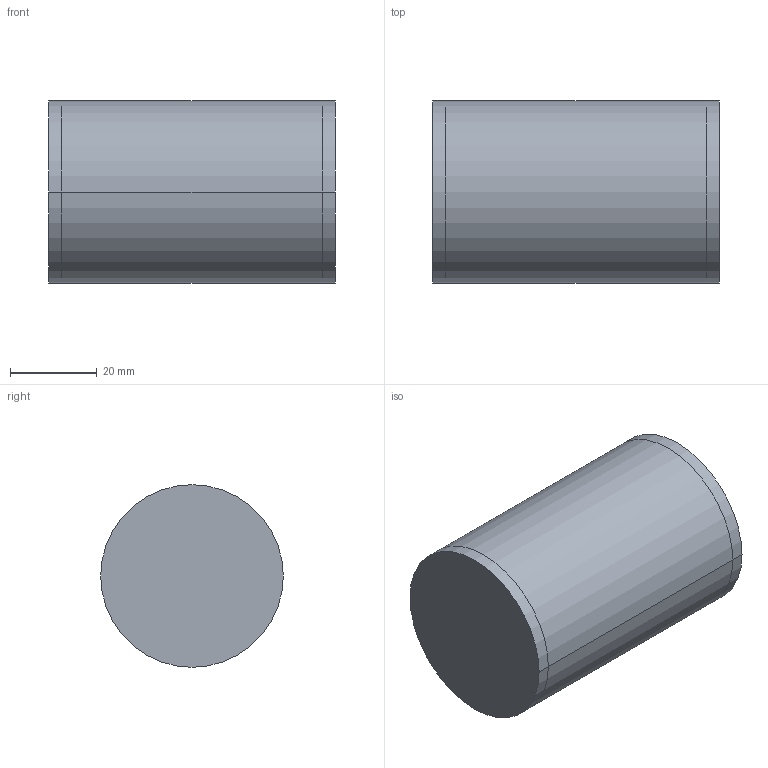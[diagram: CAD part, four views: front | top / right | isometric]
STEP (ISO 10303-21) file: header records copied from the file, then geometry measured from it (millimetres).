
FILE_DESCRIPTION(('CATIA V5 STEP Exchange'),'2;1');
FILE_NAME('C:\Users\Administrator\Desktop\φ42储气罐.stp','2021-11-23T03:06:58+00:00',('none'),('none'),'CATIA Version 5 Release 20 GA (IN-10)','CATIA V5 STEP AP214','none');
FILE_SCHEMA(('AUTOMOTIVE_DESIGN { 1 0 10303 214 1 1 1 1 }'));
Length unit declared in the file: millimetre
Products named in the file (4): 产品1; Part1; Part2; Part3
Assembly tree (3 placements, depth 2):
  产品1
    Part1
    Part2
    Part3
Bounding box: 66 x 42 x 42 mm (x, y, z)
Volume: 30326.4 mm3; surface area: 21783.4 mm2
Topology: 3 solids, 3 shells, 16 faces, 30 edges, 20 vertices
Faces by surface type: cylinder 10, plane 6
Entity records: 471 total; most frequent: CARTESIAN_POINT 67, DIRECTION 64, ORIENTED_EDGE 60, AXIS2_PLACEMENT_3D 37, EDGE_CURVE 30, CIRCLE 20, EDGE_LOOP 20, VERTEX_POINT 20
